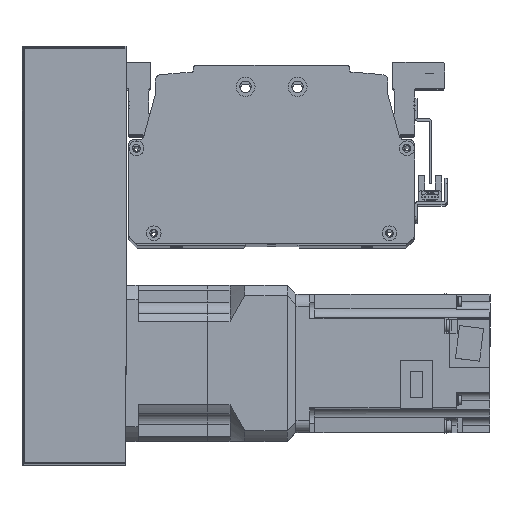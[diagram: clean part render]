
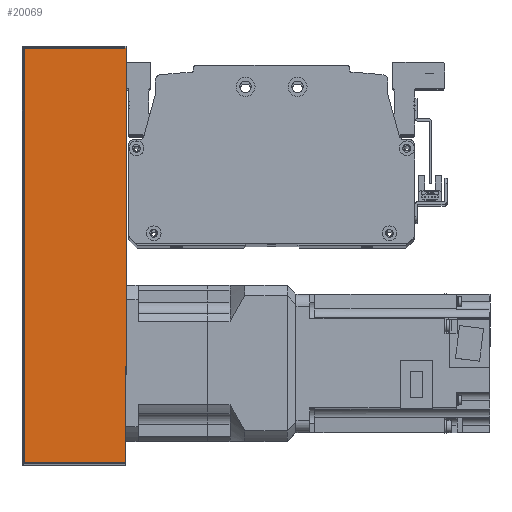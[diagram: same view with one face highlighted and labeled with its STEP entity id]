
A CAD part, top view. The second image highlights one B-rep face of the part: STEP entity #20069.
In plain terms, the highlighted planar face has unit normal (0, 0, 1) as drawn and (0, 1, 0) by its records, which use the part's own axes.
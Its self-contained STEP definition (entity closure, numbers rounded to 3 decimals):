
#591=PLANE('',#21891);
#1719=LINE('',#32245,#3379);
#1741=LINE('',#32338,#3401);
#1743=LINE('',#32348,#3403);
#1745=LINE('',#32351,#3405);
#3379=VECTOR('',#26096,10.);
#3401=VECTOR('',#26216,10.);
#3403=VECTOR('',#26230,10.);
#3405=VECTOR('',#26234,10.);
#5392=FACE_OUTER_BOUND('',#6824,.T.);
#6824=EDGE_LOOP('',(#16290,#16291,#16292,#16293));
#9698=VERTEX_POINT('',#32242);
#9699=VERTEX_POINT('',#32244);
#9720=VERTEX_POINT('',#32332);
#9723=VERTEX_POINT('',#32344);
#12060=EDGE_CURVE('',#9698,#9699,#1719,.T.);
#12108=EDGE_CURVE('',#9720,#9698,#1741,.T.);
#12113=EDGE_CURVE('',#9699,#9723,#1743,.T.);
#12115=EDGE_CURVE('',#9723,#9720,#1745,.T.);
#16290=ORIENTED_EDGE('',*,*,#12108,.F.);
#16291=ORIENTED_EDGE('',*,*,#12115,.F.);
#16292=ORIENTED_EDGE('',*,*,#12113,.F.);
#16293=ORIENTED_EDGE('',*,*,#12060,.F.);
#20069=ADVANCED_FACE('',(#5392),#591,.T.);
#21891=AXIS2_PLACEMENT_3D('',#32357,#26242,#26243);
#26096=DIRECTION('',(-1.,0.,0.));
#26216=DIRECTION('',(0.,0.,1.));
#26230=DIRECTION('',(0.,0.,-1.));
#26234=DIRECTION('',(1.,0.,0.));
#26242=DIRECTION('center_axis',(0.,1.,0.));
#26243=DIRECTION('ref_axis',(-1.,0.,0.));
#32242=CARTESIAN_POINT('',(120.,51.,30.));
#32244=CARTESIAN_POINT('',(-120.,51.,30.));
#32245=CARTESIAN_POINT('',(-121.,51.,30.));
#32332=CARTESIAN_POINT('',(120.,51.,-29.));
#32338=CARTESIAN_POINT('',(120.,51.,0.));
#32344=CARTESIAN_POINT('',(-120.,51.,-29.));
#32348=CARTESIAN_POINT('',(-120.,51.,0.));
#32351=CARTESIAN_POINT('',(60.5,51.,-29.));
#32357=CARTESIAN_POINT('Origin',(121.,51.,0.));
